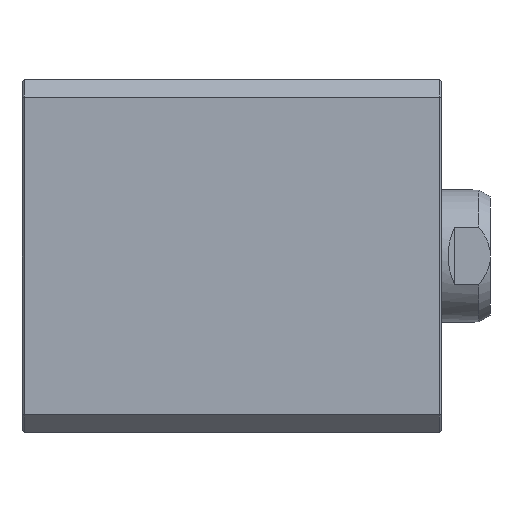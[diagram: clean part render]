
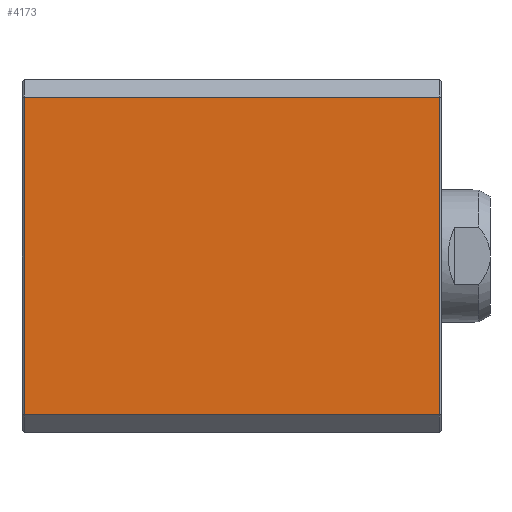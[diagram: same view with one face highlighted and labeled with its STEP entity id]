
A CAD part, left-side view. The second image highlights one B-rep face of the part: STEP entity #4173.
In plain terms, the highlighted planar face has unit normal (-1, 0, 0).
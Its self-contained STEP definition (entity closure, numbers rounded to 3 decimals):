
#85=LINE('',#5740,#379);
#178=LINE('',#5928,#472);
#180=LINE('',#5932,#474);
#181=LINE('',#5933,#475);
#379=VECTOR('',#4702,1000.);
#472=VECTOR('',#4855,1000.);
#474=VECTOR('',#4859,1000.);
#475=VECTOR('',#4860,1000.);
#987=ORIENTED_EDGE('',*,*,#1658,.F.);
#988=ORIENTED_EDGE('',*,*,#1660,.T.);
#989=ORIENTED_EDGE('',*,*,#1565,.T.);
#990=ORIENTED_EDGE('',*,*,#1661,.T.);
#1565=EDGE_CURVE('',#1932,#1933,#85,.T.);
#1658=EDGE_CURVE('',#1996,#1997,#178,.T.);
#1660=EDGE_CURVE('',#1996,#1932,#180,.T.);
#1661=EDGE_CURVE('',#1933,#1997,#181,.T.);
#1932=VERTEX_POINT('',#5741);
#1933=VERTEX_POINT('',#5742);
#1996=VERTEX_POINT('',#5927);
#1997=VERTEX_POINT('',#5929);
#2269=EDGE_LOOP('',(#987,#988,#989,#990));
#2507=FACE_BOUND('',#2269,.T.);
#2690=PLANE('',#4398);
#4173=ADVANCED_FACE('',(#2507),#2690,.T.);
#4398=AXIS2_PLACEMENT_3D('',#5931,#4857,#4858);
#4702=DIRECTION('',(0.,-1.,0.));
#4855=DIRECTION('',(0.,-1.,0.));
#4857=DIRECTION('',(-1.,0.,0.));
#4858=DIRECTION('',(0.,0.,1.));
#4859=DIRECTION('',(0.,0.,-1.));
#4860=DIRECTION('',(0.,0.,1.));
#5740=CARTESIAN_POINT('',(-40.,85.,-36.));
#5741=CARTESIAN_POINT('',(-40.,94.5,-36.));
#5742=CARTESIAN_POINT('',(-40.,0.5,-36.));
#5927=CARTESIAN_POINT('',(-40.,94.5,36.));
#5928=CARTESIAN_POINT('',(-40.,85.,36.));
#5929=CARTESIAN_POINT('',(-40.,0.5,36.));
#5931=CARTESIAN_POINT('',(-40.,85.,36.));
#5932=CARTESIAN_POINT('',(-40.,94.5,36.));
#5933=CARTESIAN_POINT('',(-40.,0.5,36.));
